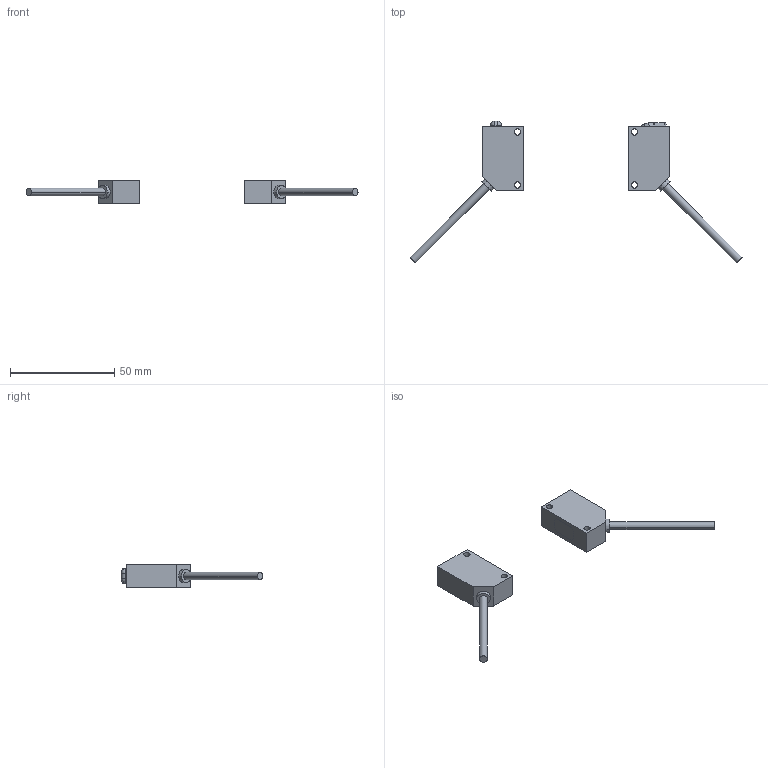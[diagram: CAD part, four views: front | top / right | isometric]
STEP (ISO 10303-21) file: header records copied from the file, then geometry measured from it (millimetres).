
FILE_DESCRIPTION (( 'STEP AP203' ), '1' );
FILE_NAME ('cx-411.STEP', '2008-09-10T00:43:16', ( ' ' ), ( ' ' ), 'SwSTEP 2.0', 'SolidWorks 2007', '' );
FILE_SCHEMA (( 'CONFIG_CONTROL_DESIGN' ));
Length unit declared in the file: millimetre
Products named in the file (3): cx-411; cx-411D_蹬怮椔; CX-411E_蹬怮椔
Assembly tree (2 placements, depth 2):
  cx-411
    CX-411E_蹬怮椔
    cx-411D_蹬怮椔
Bounding box: 159.01 x 67.91 x 11.2 mm (x, y, z)
Volume: 14323.4 mm3; surface area: 6278.7 mm2
Topology: 2 solids, 2 shells, 103 faces, 252 edges, 158 vertices
Faces by surface type: cylinder 48, plane 45, sphere 4, cone 4, bspline 2
Entity records: 3379 total; most frequent: CARTESIAN_POINT 609, DIRECTION 540, ORIENTED_EDGE 496, EDGE_CURVE 248, AXIS2_PLACEMENT_3D 203, VERTEX_POINT 158, VECTOR 134, LINE 134
